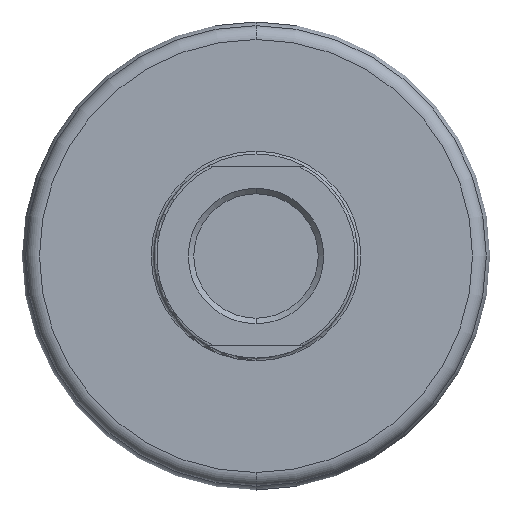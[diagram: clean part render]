
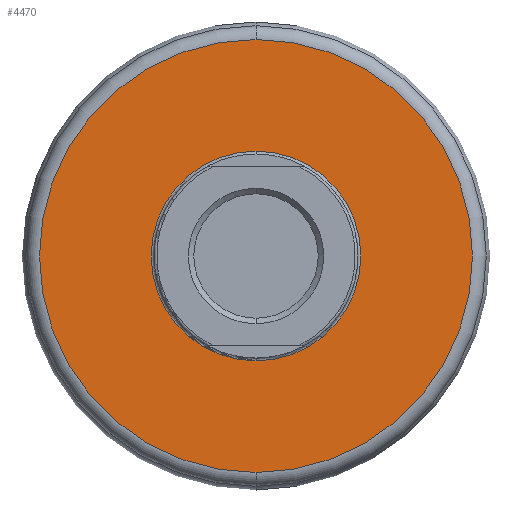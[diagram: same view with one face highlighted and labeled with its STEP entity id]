
A CAD part, front view. The second image highlights one B-rep face of the part: STEP entity #4470.
In plain terms, the highlighted planar face has unit normal (0, -1, 0).
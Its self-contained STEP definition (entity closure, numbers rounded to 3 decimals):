
#3 = DIRECTION ( 'NONE',  ( 0., -1., 0. ) ) ;
#203 = CIRCLE ( 'NONE', #5373, 38. ) ;
#366 = FACE_BOUND ( 'NONE', #4595, .T. ) ;
#629 = EDGE_LOOP ( 'NONE', ( #7392, #6869 ) ) ;
#840 = EDGE_CURVE ( 'NONE', #1282, #4159, #6646, .T. ) ;
#847 = CARTESIAN_POINT ( 'NONE',  ( 0., 15., 38. ) ) ;
#1084 = PLANE ( 'NONE',  #6711 ) ;
#1148 = CARTESIAN_POINT ( 'NONE',  ( 0., 15., 0. ) ) ;
#1282 = VERTEX_POINT ( 'NONE', #5263 ) ;
#1679 = EDGE_CURVE ( 'NONE', #3705, #7104, #203, .T. ) ;
#2195 = CARTESIAN_POINT ( 'NONE',  ( 0., 15., 78.5 ) ) ;
#2382 = DIRECTION ( 'NONE',  ( 0., -1., 0. ) ) ;
#2490 = CARTESIAN_POINT ( 'NONE',  ( 0., 15., 0. ) ) ;
#2635 = ORIENTED_EDGE ( 'NONE', *, *, #3984, .F. ) ;
#2652 = AXIS2_PLACEMENT_3D ( 'NONE', #1148, #3, #7297 ) ;
#3705 = VERTEX_POINT ( 'NONE', #4410 ) ;
#3984 = EDGE_CURVE ( 'NONE', #7104, #3705, #6088, .T. ) ;
#4050 = DIRECTION ( 'NONE',  ( 0., -1., 0. ) ) ;
#4159 = VERTEX_POINT ( 'NONE', #2195 ) ;
#4161 = CARTESIAN_POINT ( 'NONE',  ( 0., 15., 0. ) ) ;
#4410 = CARTESIAN_POINT ( 'NONE',  ( 0., 15., -38. ) ) ;
#4470 = ADVANCED_FACE ( 'NONE', ( #366, #6439 ), #1084, .F. ) ;
#4545 = DIRECTION ( 'NONE',  ( 1., 0., 0. ) ) ;
#4595 = EDGE_LOOP ( 'NONE', ( #7140, #2635 ) ) ;
#4959 = AXIS2_PLACEMENT_3D ( 'NONE', #4161, #2382, #7749 ) ;
#5139 = AXIS2_PLACEMENT_3D ( 'NONE', #6894, #4050, #6415 ) ;
#5177 = DIRECTION ( 'NONE',  ( 0., 1., 0. ) ) ;
#5263 = CARTESIAN_POINT ( 'NONE',  ( 0., 15., -78.5 ) ) ;
#5373 = AXIS2_PLACEMENT_3D ( 'NONE', #2490, #5419, #5385 ) ;
#5385 = DIRECTION ( 'NONE',  ( 0., 0., -1. ) ) ;
#5419 = DIRECTION ( 'NONE',  ( 0., -1., 0. ) ) ;
#6057 = CIRCLE ( 'NONE', #2652, 78.5 ) ;
#6088 = CIRCLE ( 'NONE', #4959, 38. ) ;
#6362 = EDGE_CURVE ( 'NONE', #4159, #1282, #6057, .T. ) ;
#6415 = DIRECTION ( 'NONE',  ( 0., 0., -1. ) ) ;
#6439 = FACE_OUTER_BOUND ( 'NONE', #629, .T. ) ;
#6480 = CARTESIAN_POINT ( 'NONE',  ( -38., 15., 0. ) ) ;
#6646 = CIRCLE ( 'NONE', #5139, 78.5 ) ;
#6711 = AXIS2_PLACEMENT_3D ( 'NONE', #6480, #5177, #4545 ) ;
#6869 = ORIENTED_EDGE ( 'NONE', *, *, #6362, .T. ) ;
#6894 = CARTESIAN_POINT ( 'NONE',  ( 0., 15., 0. ) ) ;
#7104 = VERTEX_POINT ( 'NONE', #847 ) ;
#7140 = ORIENTED_EDGE ( 'NONE', *, *, #1679, .F. ) ;
#7297 = DIRECTION ( 'NONE',  ( 0., 0., -1. ) ) ;
#7392 = ORIENTED_EDGE ( 'NONE', *, *, #840, .T. ) ;
#7749 = DIRECTION ( 'NONE',  ( 0., 0., -1. ) ) ;
